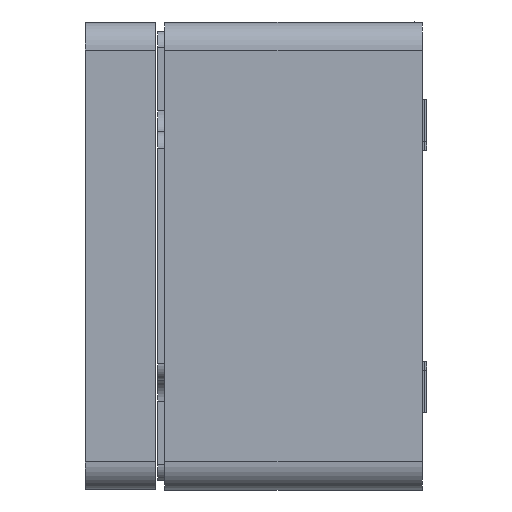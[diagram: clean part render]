
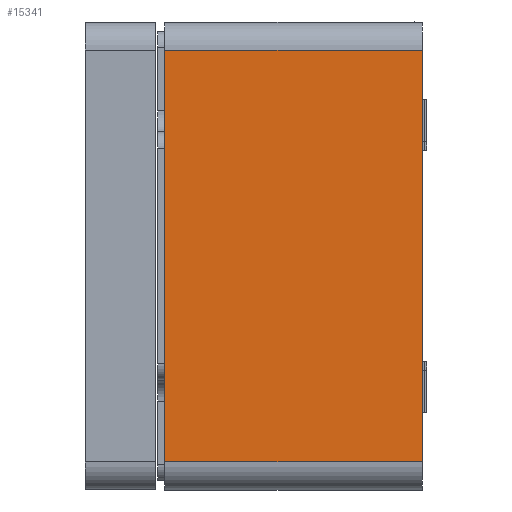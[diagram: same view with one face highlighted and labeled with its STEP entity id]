
A CAD part, left-side view. The second image highlights one B-rep face of the part: STEP entity #15341.
In plain terms, the highlighted planar face has unit normal (-1, 0, 0).
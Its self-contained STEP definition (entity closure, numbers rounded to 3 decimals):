
#346 = CARTESIAN_POINT ( 'NONE',  ( -80., 0., 44. ) ) ;
#787 = VECTOR ( 'NONE', #7956, 1000. ) ;
#1047 = DIRECTION ( 'NONE',  ( 0., -1., 0. ) ) ;
#2191 = DIRECTION ( 'NONE',  ( 0., 0., -1. ) ) ;
#2847 = DIRECTION ( 'NONE',  ( 0., 0., 1. ) ) ;
#3884 = CARTESIAN_POINT ( 'NONE',  ( -80., 55., 44. ) ) ;
#4401 = PLANE ( 'NONE',  #20079 ) ;
#4824 = ORIENTED_EDGE ( 'NONE', *, *, #19420, .F. ) ;
#4944 = EDGE_CURVE ( 'NONE', #25450, #23053, #16426, .T. ) ;
#5208 = VECTOR ( 'NONE', #5822, 1000. ) ;
#5822 = DIRECTION ( 'NONE',  ( 0., 1., 0. ) ) ;
#7739 = EDGE_CURVE ( 'NONE', #10919, #21815, #13736, .T. ) ;
#7956 = DIRECTION ( 'NONE',  ( 0., 0., 1. ) ) ;
#9274 = CARTESIAN_POINT ( 'NONE',  ( -80., 0., -44. ) ) ;
#9460 = LINE ( 'NONE', #16219, #787 ) ;
#10466 = CARTESIAN_POINT ( 'NONE',  ( -80., 55., -50. ) ) ;
#10919 = VERTEX_POINT ( 'NONE', #12304 ) ;
#11285 = VECTOR ( 'NONE', #1047, 1000. ) ;
#11292 = ORIENTED_EDGE ( 'NONE', *, *, #25080, .T. ) ;
#12304 = CARTESIAN_POINT ( 'NONE',  ( -80., 55., -44. ) ) ;
#12668 = DIRECTION ( 'NONE',  ( 1., 0., 0. ) ) ;
#13736 = LINE ( 'NONE', #15935, #11285 ) ;
#14674 = EDGE_LOOP ( 'NONE', ( #11292, #17746, #4824, #20912 ) ) ;
#15012 = LINE ( 'NONE', #15280, #17970 ) ;
#15280 = CARTESIAN_POINT ( 'NONE',  ( -80., 0., -50. ) ) ;
#15341 = ADVANCED_FACE ( 'NONE', ( #17078 ), #4401, .F. ) ;
#15935 = CARTESIAN_POINT ( 'NONE',  ( -80., 55., -44. ) ) ;
#16219 = CARTESIAN_POINT ( 'NONE',  ( -80., 55., -50. ) ) ;
#16426 = LINE ( 'NONE', #3884, #5208 ) ;
#17078 = FACE_OUTER_BOUND ( 'NONE', #14674, .T. ) ;
#17746 = ORIENTED_EDGE ( 'NONE', *, *, #4944, .T. ) ;
#17970 = VECTOR ( 'NONE', #2847, 1000. ) ;
#19420 = EDGE_CURVE ( 'NONE', #10919, #23053, #9460, .T. ) ;
#20079 = AXIS2_PLACEMENT_3D ( 'NONE', #10466, #12668, #2191 ) ;
#20912 = ORIENTED_EDGE ( 'NONE', *, *, #7739, .T. ) ;
#21815 = VERTEX_POINT ( 'NONE', #9274 ) ;
#23053 = VERTEX_POINT ( 'NONE', #24495 ) ;
#24495 = CARTESIAN_POINT ( 'NONE',  ( -80., 55., 44. ) ) ;
#25080 = EDGE_CURVE ( 'NONE', #21815, #25450, #15012, .T. ) ;
#25450 = VERTEX_POINT ( 'NONE', #346 ) ;
